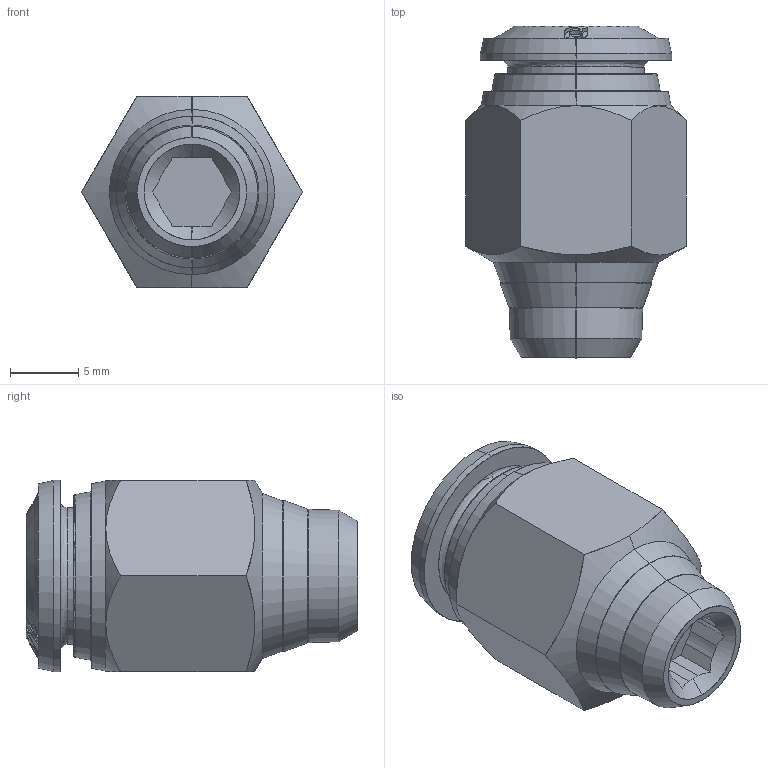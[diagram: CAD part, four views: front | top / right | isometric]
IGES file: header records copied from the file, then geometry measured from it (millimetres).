
Start section: SolidWorks IGES file using analytic representation for surfaces
Global section: file name: K:\Disegni Esecutivi\Serie 55000\ASSIEMI_55000\55000\ASSIEMI_PIENI_55000\5500000006.IGS; native system: SolidWorks 2007; preprocessor: SolidWorks 2007; author: cad02; date: 071117.091529; units: millimetre
Bounding box: 16.17 x 24.3 x 14 mm (x, y, z)
Surface area: 1930.6 mm2 (no closed solid volume)
Topology: 0 solids, 0 shells, 227 faces, 2691 edges, 2688 vertices
Faces by surface type: bspline 149, revolution 78
